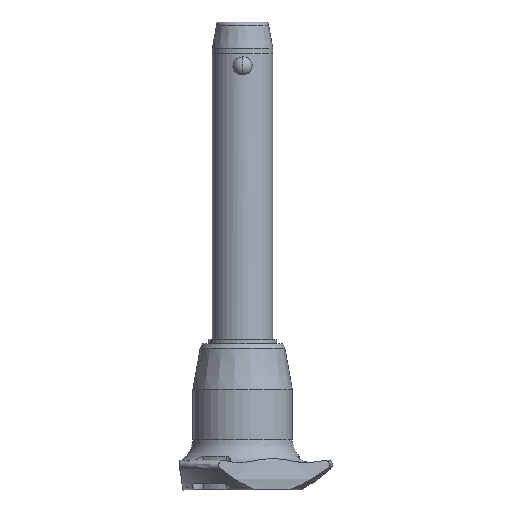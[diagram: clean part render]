
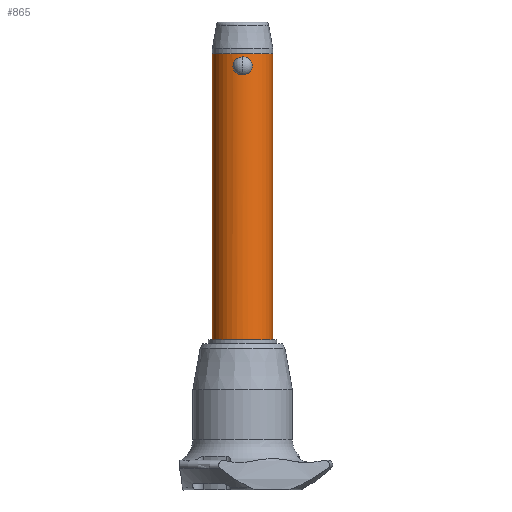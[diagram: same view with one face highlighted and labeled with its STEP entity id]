
A CAD part, front view. The second image highlights one B-rep face of the part: STEP entity #865.
In plain terms, the highlighted cylindrical face has radius 8 mm (diameter 16 mm), a partial arc.
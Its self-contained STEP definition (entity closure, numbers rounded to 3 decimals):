
#14 = CARTESIAN_POINT ( 'NONE',  ( 0., -8., 4.775 ) ) ;
#127 = CARTESIAN_POINT ( 'NONE',  ( 0.652, -7.979, 0.058 ) ) ;
#143 = CARTESIAN_POINT ( 'NONE',  ( 1.657, -7.827, 0.558 ) ) ;
#155 = CARTESIAN_POINT ( 'NONE',  ( 1.252, -7.903, 0.296 ) ) ;
#185 = CARTESIAN_POINT ( 'NONE',  ( 1.253, -7.903, 4.478 ) ) ;
#231 = CARTESIAN_POINT ( 'NONE',  ( -1.896, -7.773, 4.001 ) ) ;
#232 = VERTEX_POINT ( 'NONE', #2215 ) ;
#275 = VERTEX_POINT ( 'NONE', #423 ) ;
#278 = CARTESIAN_POINT ( 'NONE',  ( 8., 0., 5.6 ) ) ;
#334 = EDGE_CURVE ( 'NONE', #275, #1860, #1700, .T. ) ;
#350 = CARTESIAN_POINT ( 'NONE',  ( 2.529, -7.59, 2.71 ) ) ;
#417 = DIRECTION ( 'NONE',  ( 0., 0., 1. ) ) ;
#418 = CARTESIAN_POINT ( 'NONE',  ( -1.659, -7.827, 0.559 ) ) ;
#419 = B_SPLINE_CURVE_WITH_KNOTS ( 'NONE', 3,
 ( #14, #1789, #2925, #1600, #879, #1772, #925, #1613, #1997, #231, #2464, #1384, #667, #2493, #2686, #2745, #894, #652, #638, #1339, #1837, #1805, #2031, #418, #2509, #447, #2299, #1817, #2237, #699 ),
 .UNSPECIFIED., .F., .F.,
 ( 4, 2, 2, 2, 2, 2, 2, 2, 2, 2, 2, 2, 2, 2, 4 ),
 ( 0., 0., 0.001, 0.001, 0.002, 0.002, 0.003, 0.003, 0.004, 0.004, 0.005, 0.006, 0.006, 0.007, 0.008 ),
 .UNSPECIFIED. ) ;
#421 = CARTESIAN_POINT ( 'NONE',  ( 1.108, -7.924, 4.548 ) ) ;
#423 = CARTESIAN_POINT ( 'NONE',  ( 8., 0., -70. ) ) ;
#447 = CARTESIAN_POINT ( 'NONE',  ( -1.254, -7.902, 0.297 ) ) ;
#549 = EDGE_CURVE ( 'NONE', #2281, #232, #827, .T. ) ;
#595 = CARTESIAN_POINT ( 'NONE',  ( 1.529, -7.854, 0.463 ) ) ;
#616 = CARTESIAN_POINT ( 'NONE',  ( -8., 0., -70. ) ) ;
#622 = CARTESIAN_POINT ( 'NONE',  ( 2.194, -7.694, 1.153 ) ) ;
#638 = CARTESIAN_POINT ( 'NONE',  ( -2.529, -7.59, 2.064 ) ) ;
#640 = CARTESIAN_POINT ( 'NONE',  ( 0.645, -7.976, 4.704 ) ) ;
#652 = CARTESIAN_POINT ( 'NONE',  ( -2.547, -7.584, 2.229 ) ) ;
#667 = CARTESIAN_POINT ( 'NONE',  ( -2.276, -7.67, 3.482 ) ) ;
#699 = CARTESIAN_POINT ( 'NONE',  ( 0., -8., 0. ) ) ;
#701 = ORIENTED_EDGE ( 'NONE', *, *, #2115, .F. ) ;
#797 = CARTESIAN_POINT ( 'NONE',  ( 2.528, -7.59, 2.058 ) ) ;
#827 = B_SPLINE_CURVE_WITH_KNOTS ( 'NONE', 3,
 ( #1525, #2670, #127, #1540, #155, #595, #143, #2433, #1957, #622, #1021, #2848, #2873, #797, #2614, #1476, #350, #1257, #2861, #1739, #2193, #2421, #1720, #185, #421, #1617, #640, #2497, #2718, #2256 ),
 .UNSPECIFIED., .F., .F.,
 ( 4, 2, 2, 2, 2, 2, 2, 2, 2, 2, 2, 2, 2, 2, 4 ),
 ( 0.008, 0.009, 0.009, 0.01, 0.01, 0.011, 0.011, 0.012, 0.012, 0.013, 0.014, 0.014, 0.015, 0.015, 0.016 ),
 .UNSPECIFIED. ) ;
#855 = ORIENTED_EDGE ( 'NONE', *, *, #2684, .F. ) ;
#856 = DIRECTION ( 'NONE',  ( 1., 0., 0. ) ) ;
#865 = ADVANCED_FACE ( 'NONE', ( #2481, #2258 ), #1604, .T. ) ;
#879 = CARTESIAN_POINT ( 'NONE',  ( -0.803, -7.961, 4.661 ) ) ;
#894 = CARTESIAN_POINT ( 'NONE',  ( -2.546, -7.584, 2.553 ) ) ;
#925 = CARTESIAN_POINT ( 'NONE',  ( -1.252, -7.903, 4.479 ) ) ;
#945 = DIRECTION ( 'NONE',  ( 1., 0., 0. ) ) ;
#1021 = CARTESIAN_POINT ( 'NONE',  ( 2.275, -7.67, 1.291 ) ) ;
#1048 = ORIENTED_EDGE ( 'NONE', *, *, #1712, .F. ) ;
#1100 = DIRECTION ( 'NONE',  ( 0., 0., -1. ) ) ;
#1110 = AXIS2_PLACEMENT_3D ( 'NONE', #2033, #1172, #945 ) ;
#1172 = DIRECTION ( 'NONE',  ( 0., 0., 1. ) ) ;
#1181 = ORIENTED_EDGE ( 'NONE', *, *, #1272, .F. ) ;
#1257 = CARTESIAN_POINT ( 'NONE',  ( 2.461, -7.612, 3.027 ) ) ;
#1272 = EDGE_CURVE ( 'NONE', #1665, #1860, #1493, .T. ) ;
#1302 = CIRCLE ( 'NONE', #2313, 8. ) ;
#1339 = CARTESIAN_POINT ( 'NONE',  ( -2.461, -7.612, 1.746 ) ) ;
#1364 = ORIENTED_EDGE ( 'NONE', *, *, #334, .T. ) ;
#1384 = CARTESIAN_POINT ( 'NONE',  ( -2.193, -7.694, 3.623 ) ) ;
#1427 = LINE ( 'NONE', #2343, #1825 ) ;
#1476 = CARTESIAN_POINT ( 'NONE',  ( 2.547, -7.584, 2.549 ) ) ;
#1493 = CIRCLE ( 'NONE', #2112, 8. ) ;
#1525 = CARTESIAN_POINT ( 'NONE',  ( 0., -8., 0. ) ) ;
#1535 = CARTESIAN_POINT ( 'NONE',  ( 0., 0., 5.6 ) ) ;
#1540 = CARTESIAN_POINT ( 'NONE',  ( 1.105, -7.925, 0.226 ) ) ;
#1600 = CARTESIAN_POINT ( 'NONE',  ( -0.645, -7.976, 4.704 ) ) ;
#1604 = CYLINDRICAL_SURFACE ( 'NONE', #1110, 8. ) ;
#1613 = CARTESIAN_POINT ( 'NONE',  ( -1.527, -7.854, 4.313 ) ) ;
#1617 = CARTESIAN_POINT ( 'NONE',  ( 0.804, -7.961, 4.661 ) ) ;
#1665 = VERTEX_POINT ( 'NONE', #2899 ) ;
#1700 = LINE ( 'NONE', #2404, #2391 ) ;
#1712 = EDGE_CURVE ( 'NONE', #232, #2281, #419, .T. ) ;
#1720 = CARTESIAN_POINT ( 'NONE',  ( 1.529, -7.854, 4.312 ) ) ;
#1739 = CARTESIAN_POINT ( 'NONE',  ( 2.211, -7.69, 3.626 ) ) ;
#1772 = CARTESIAN_POINT ( 'NONE',  ( -1.107, -7.924, 4.548 ) ) ;
#1789 = CARTESIAN_POINT ( 'NONE',  ( -0.164, -8., 4.775 ) ) ;
#1805 = CARTESIAN_POINT ( 'NONE',  ( -2.211, -7.69, 1.148 ) ) ;
#1817 = CARTESIAN_POINT ( 'NONE',  ( -0.652, -7.979, 0.058 ) ) ;
#1825 = VECTOR ( 'NONE', #2174, 1000. ) ;
#1837 = CARTESIAN_POINT ( 'NONE',  ( -2.411, -7.628, 1.592 ) ) ;
#1860 = VERTEX_POINT ( 'NONE', #278 ) ;
#1861 = EDGE_LOOP ( 'NONE', ( #855, #701, #1364, #1181 ) ) ;
#1957 = CARTESIAN_POINT ( 'NONE',  ( 2.004, -7.746, 0.894 ) ) ;
#1997 = CARTESIAN_POINT ( 'NONE',  ( -1.658, -7.827, 4.216 ) ) ;
#2001 = VERTEX_POINT ( 'NONE', #616 ) ;
#2031 = CARTESIAN_POINT ( 'NONE',  ( -2.016, -7.746, 0.883 ) ) ;
#2033 = CARTESIAN_POINT ( 'NONE',  ( 0., 0., -70. ) ) ;
#2112 = AXIS2_PLACEMENT_3D ( 'NONE', #1535, #417, #2492 ) ;
#2115 = EDGE_CURVE ( 'NONE', #275, #2001, #1302, .T. ) ;
#2174 = DIRECTION ( 'NONE',  ( 0., 0., 1. ) ) ;
#2193 = CARTESIAN_POINT ( 'NONE',  ( 2.016, -7.746, 3.891 ) ) ;
#2215 = CARTESIAN_POINT ( 'NONE',  ( 0., -8., 4.775 ) ) ;
#2237 = CARTESIAN_POINT ( 'NONE',  ( -0.324, -8., 0. ) ) ;
#2256 = CARTESIAN_POINT ( 'NONE',  ( 0., -8., 4.775 ) ) ;
#2258 = FACE_BOUND ( 'NONE', #2584, .T. ) ;
#2281 = VERTEX_POINT ( 'NONE', #2707 ) ;
#2299 = CARTESIAN_POINT ( 'NONE',  ( -1.106, -7.925, 0.226 ) ) ;
#2313 = AXIS2_PLACEMENT_3D ( 'NONE', #2907, #1100, #856 ) ;
#2343 = CARTESIAN_POINT ( 'NONE',  ( -8., 0., -70. ) ) ;
#2375 = DIRECTION ( 'NONE',  ( 0., 0., 1. ) ) ;
#2391 = VECTOR ( 'NONE', #2375, 1000. ) ;
#2404 = CARTESIAN_POINT ( 'NONE',  ( 8., 0., -70. ) ) ;
#2421 = CARTESIAN_POINT ( 'NONE',  ( 1.66, -7.827, 4.215 ) ) ;
#2433 = CARTESIAN_POINT ( 'NONE',  ( 1.894, -7.773, 0.773 ) ) ;
#2464 = CARTESIAN_POINT ( 'NONE',  ( -2.003, -7.746, 3.882 ) ) ;
#2481 = FACE_OUTER_BOUND ( 'NONE', #1861, .T. ) ;
#2492 = DIRECTION ( 'NONE',  ( 1., 0., 0. ) ) ;
#2493 = CARTESIAN_POINT ( 'NONE',  ( -2.408, -7.629, 3.189 ) ) ;
#2497 = CARTESIAN_POINT ( 'NONE',  ( 0.326, -7.995, 4.761 ) ) ;
#2509 = CARTESIAN_POINT ( 'NONE',  ( -1.53, -7.854, 0.464 ) ) ;
#2584 = EDGE_LOOP ( 'NONE', ( #1048, #2600 ) ) ;
#2600 = ORIENTED_EDGE ( 'NONE', *, *, #549, .F. ) ;
#2614 = CARTESIAN_POINT ( 'NONE',  ( 2.546, -7.584, 2.22 ) ) ;
#2670 = CARTESIAN_POINT ( 'NONE',  ( 0.324, -8., 0. ) ) ;
#2684 = EDGE_CURVE ( 'NONE', #2001, #1665, #1427, .T. ) ;
#2686 = CARTESIAN_POINT ( 'NONE',  ( -2.459, -7.613, 3.036 ) ) ;
#2707 = CARTESIAN_POINT ( 'NONE',  ( 0., -8., 0. ) ) ;
#2718 = CARTESIAN_POINT ( 'NONE',  ( 0.164, -8., 4.775 ) ) ;
#2745 = CARTESIAN_POINT ( 'NONE',  ( -2.529, -7.59, 2.716 ) ) ;
#2848 = CARTESIAN_POINT ( 'NONE',  ( 2.408, -7.629, 1.586 ) ) ;
#2861 = CARTESIAN_POINT ( 'NONE',  ( 2.41, -7.629, 3.184 ) ) ;
#2873 = CARTESIAN_POINT ( 'NONE',  ( 2.46, -7.613, 1.742 ) ) ;
#2899 = CARTESIAN_POINT ( 'NONE',  ( -8., 0., 5.6 ) ) ;
#2907 = CARTESIAN_POINT ( 'NONE',  ( 0., 0., -70. ) ) ;
#2925 = CARTESIAN_POINT ( 'NONE',  ( -0.326, -7.995, 4.761 ) ) ;
